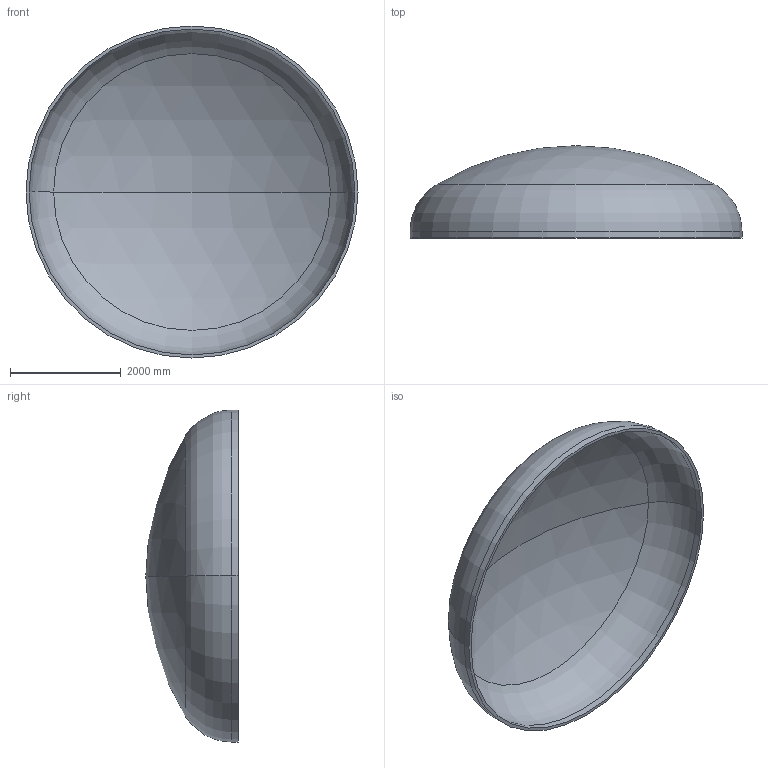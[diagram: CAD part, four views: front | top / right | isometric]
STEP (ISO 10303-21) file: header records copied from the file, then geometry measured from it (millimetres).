
FILE_DESCRIPTION (( 'STEP AP203' ), '1' );
FILE_NAME ('DIN 28013 Korbbogenform_-_Boden DIN 28013 - 6000 x 120 - I - s=56.step', '2016-07-04T10:37:33', ( '' ), ( '' ), 'SwSTEP 2.0', 'SolidWorks 2013', '' );
FILE_SCHEMA (( 'CONFIG_CONTROL_DESIGN' ));
Length unit declared in the file: millimetre
Products named in the file (1): DIN 28013 Korbbogenform_-_Boden DIN 28013 - 6000 x 120 - I - s=56
Bounding box: 6000 x 1668.54 x 6000 mm (x, y, z)
Volume: 2291982363.4 mm3; surface area: 82908772.8 mm2
Topology: 1 solids, 1 shells, 13 faces, 24 edges, 14 vertices
Faces by surface type: torus 4, cylinder 4, sphere 4, plane 1
Entity records: 407 total; most frequent: DIRECTION 72, CARTESIAN_POINT 52, ORIENTED_EDGE 48, AXIS2_PLACEMENT_3D 34, EDGE_CURVE 24, CIRCLE 20, VERTEX_POINT 14, EDGE_LOOP 14
